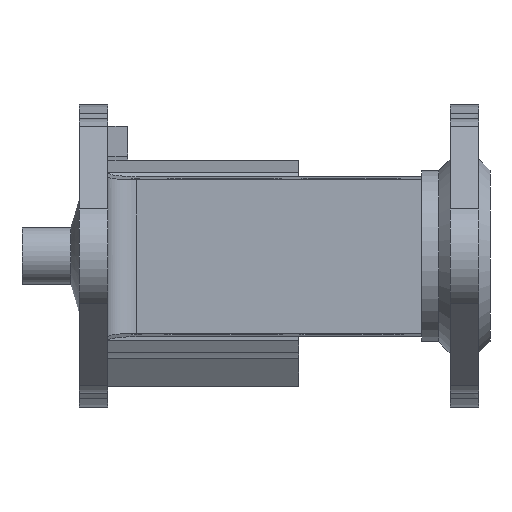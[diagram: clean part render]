
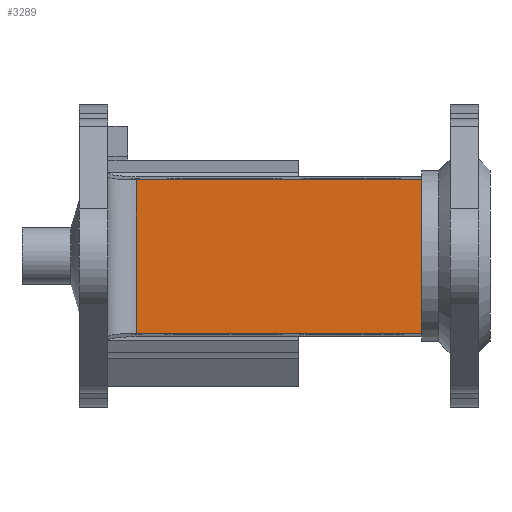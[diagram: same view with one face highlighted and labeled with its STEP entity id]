
A CAD part, front view. The second image highlights one B-rep face of the part: STEP entity #3289.
In plain terms, the highlighted planar face has unit normal (0, -1, 0).
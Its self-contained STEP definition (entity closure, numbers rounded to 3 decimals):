
#420=FACE_OUTER_BOUND('',#612,.T.);
#612=EDGE_LOOP('',(#2266,#2267,#2268,#2269,#2270,#2271,#2272,#2273));
#888=LINE('',#4677,#1137);
#891=LINE('',#4708,#1140);
#893=LINE('',#4723,#1142);
#894=LINE('',#4725,#1143);
#895=LINE('',#4726,#1144);
#896=LINE('',#4728,#1145);
#897=LINE('',#4730,#1146);
#898=LINE('',#4731,#1147);
#1137=VECTOR('',#3831,10.);
#1140=VECTOR('',#3850,10.);
#1142=VECTOR('',#3854,10.);
#1143=VECTOR('',#3855,10.);
#1144=VECTOR('',#3856,10.);
#1145=VECTOR('',#3857,10.);
#1146=VECTOR('',#3858,10.);
#1147=VECTOR('',#3859,10.);
#1392=VERTEX_POINT('',#4652);
#1395=VERTEX_POINT('',#4666);
#1404=VERTEX_POINT('',#4696);
#1405=VERTEX_POINT('',#4707);
#1407=VERTEX_POINT('',#4722);
#1408=VERTEX_POINT('',#4724);
#1409=VERTEX_POINT('',#4727);
#1410=VERTEX_POINT('',#4729);
#1733=EDGE_CURVE('',#1395,#1392,#888,.T.);
#1743=EDGE_CURVE('',#1404,#1405,#891,.T.);
#1746=EDGE_CURVE('',#1395,#1407,#893,.T.);
#1747=EDGE_CURVE('',#1408,#1407,#894,.T.);
#1748=EDGE_CURVE('',#1405,#1408,#895,.T.);
#1749=EDGE_CURVE('',#1409,#1404,#896,.T.);
#1750=EDGE_CURVE('',#1410,#1409,#897,.T.);
#1751=EDGE_CURVE('',#1392,#1410,#898,.T.);
#2266=ORIENTED_EDGE('',*,*,#1733,.F.);
#2267=ORIENTED_EDGE('',*,*,#1746,.T.);
#2268=ORIENTED_EDGE('',*,*,#1747,.F.);
#2269=ORIENTED_EDGE('',*,*,#1748,.F.);
#2270=ORIENTED_EDGE('',*,*,#1743,.F.);
#2271=ORIENTED_EDGE('',*,*,#1749,.F.);
#2272=ORIENTED_EDGE('',*,*,#1750,.F.);
#2273=ORIENTED_EDGE('',*,*,#1751,.F.);
#3205=PLANE('',#3512);
#3289=ADVANCED_FACE('',(#420),#3205,.T.);
#3512=AXIS2_PLACEMENT_3D('',#4721,#3852,#3853);
#3831=DIRECTION('',(0.,0.,-1.));
#3850=DIRECTION('',(0.,0.,1.));
#3852=DIRECTION('center_axis',(0.,-1.,0.));
#3853=DIRECTION('ref_axis',(0.,0.,
1.));
#3854=DIRECTION('',(-1.,0.,0.));
#3855=DIRECTION('',(0.,0.,1.));
#3856=DIRECTION('',(-1.,0.,0.));
#3857=DIRECTION('',(1.,0.,0.));
#3858=DIRECTION('',(0.,0.,1.));
#3859=DIRECTION('',(-1.,0.,0.));
#4652=CARTESIAN_POINT('',(36.5,116.363,-5.672));
#4666=CARTESIAN_POINT('',(36.5,116.363,21.241));
#4677=CARTESIAN_POINT('',(36.5,116.363,1.114));
#4696=CARTESIAN_POINT('',(-13.5,116.363,-5.67));
#4707=CARTESIAN_POINT('',(-13.5,116.363,21.24));
#4708=CARTESIAN_POINT('',(-13.5,116.363,1.114));
#4721=CARTESIAN_POINT('Origin',(41.5,116.363,-5.672));
#4722=CARTESIAN_POINT('',(-23.5,116.363,21.241));
#4723=CARTESIAN_POINT('',(41.5,116.363,21.241));
#4724=CARTESIAN_POINT('',(-23.5,116.363,21.24));
#4725=CARTESIAN_POINT('',(-23.5,116.363,-5.672));
#4726=CARTESIAN_POINT('',(-23.5,116.363,21.24));
#4727=CARTESIAN_POINT('',(-23.5,116.363,-5.67));
#4728=CARTESIAN_POINT('',(-23.5,116.363,-5.67));
#4729=CARTESIAN_POINT('',(-23.5,116.363,-5.672));
#4730=CARTESIAN_POINT('',(-23.5,116.363,-5.672));
#4731=CARTESIAN_POINT('',(41.5,116.363,-5.672));
